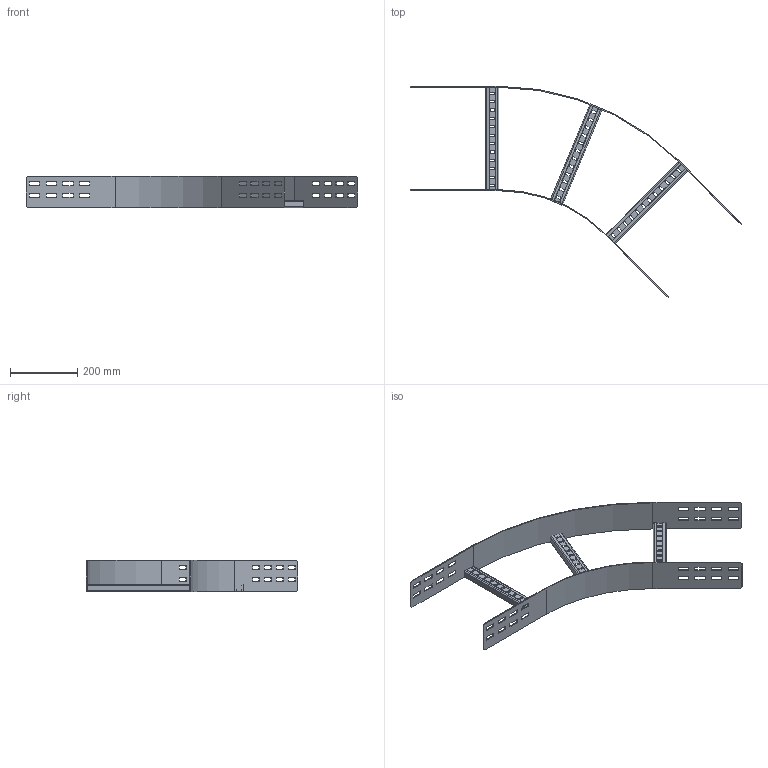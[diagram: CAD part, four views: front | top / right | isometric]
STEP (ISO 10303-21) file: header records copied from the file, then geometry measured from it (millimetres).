
FILE_DESCRIPTION(('Creo Elements/Direct Modeling STEP Export'),'2;1');
FILE_NAME('WPHB10-30-45-45.stp','2016-05-20T 8:28:48',(''),(''),'PTC Creo Elements/Direct Modeling STEP processor for AP214 (Solid Model)','PTC Creo Elements/Direct Modeling 19.0C 15-Aug-2015 (C) Parametric Technology GmbH','');
FILE_SCHEMA(('AUTOMOTIVE_DESIGN { 1 0 10303 214 1 1 1 1 }'));
Length unit declared in the file: millimetre
Products named in the file (4): WPHBS30.003; WPBA_100-30-45; WPBI_100-45; WPHB10-30-45-45
Assembly tree (5 placements, depth 2):
  WPHB10-30-45-45
    WPBI_100-45
    WPHBS30.003  x3
    WPBA_100-30-45
Bounding box: 988.37 x 629.31 x 95 mm (x, y, z)
Volume: 671978 mm3; surface area: 563966.3 mm2
Topology: 5 solids, 5 shells, 420 faces, 1230 edges, 820 vertices
Faces by surface type: plane 290, cylinder 130
Entity records: 8302 total; most frequent: CARTESIAN_POINT 1439, ORIENTED_EDGE 1428, DIRECTION 1304, EDGE_CURVE 714, VECTOR 622, LINE 622, VERTEX_POINT 476, AXIS2_PLACEMENT_3D 341
